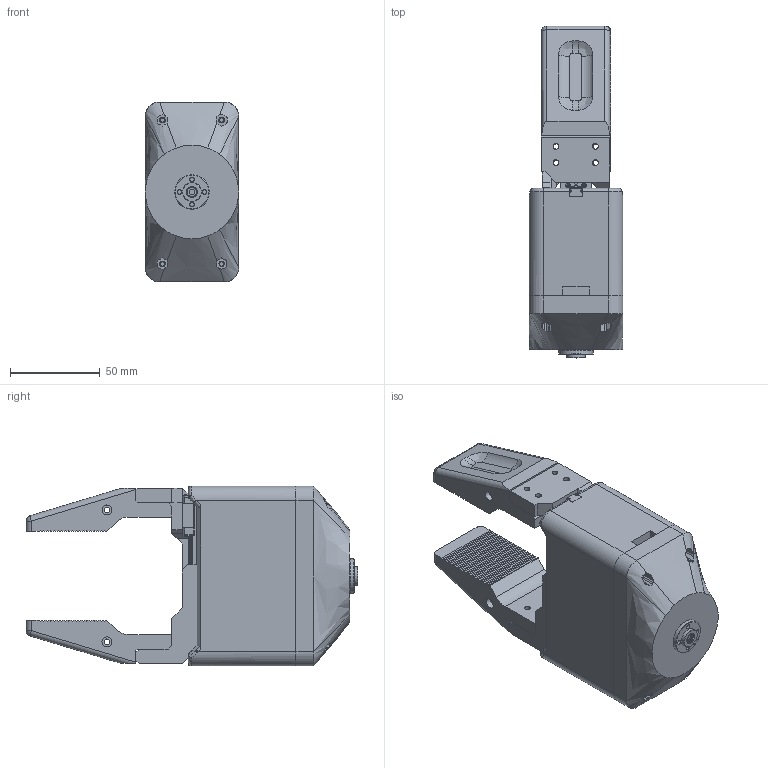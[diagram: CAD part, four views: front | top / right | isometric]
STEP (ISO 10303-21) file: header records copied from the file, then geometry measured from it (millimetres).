
FILE_DESCRIPTION(/* description */ ('STEP AP203'),/* implementation_level */ '2;1');
FILE_NAME(/* name */ 'MGN7 with rail.gripper stp.stp',/* time_stamp */ '2025-12-09T21:16:47+01:00',/* author */ ('R5800u'),/* organization */ (''),/* preprocessor_version */ 'ST-DEVELOPER v20',/* originating_system */ 'Autodesk Inventor 2025',/* authorisation */ '');
FILE_SCHEMA (('AUTOMOTIVE_DESIGN { 1 0 10303 214 3 1 1 }'));
Products named in the file (20): MGN7 with rail; MGN7 rail_100 mm; MGN7C_MGN7C; pignone; cremagliera; cremagliera2; SCS215_7_3; ZK_122; SG-ZIJI_15; XG-ZIJI_16; MOTOR-1723_3; PCB-CHAZUO_92; GE_27; 金属舵盘（驱动）; base; ANSI B18.3.1M - M3x0,5 x 40(1); base_aggancio; disco_20mm; AS 1474 - M3; dito2
Assembly tree (24 placements, depth 3):
  MGN7 with rail
    MGN7 rail_100 mm
    MGN7C_MGN7C  x2
    pignone
    cremagliera
    cremagliera2
    SCS215_7_3
      ZK_122
      SG-ZIJI_15
      XG-ZIJI_16
      MOTOR-1723_3
      PCB-CHAZUO_92
      GE_27
      金属舵盘（驱动）
    base
    ANSI B18.3.1M - M3x0,5 x 40(1)  x4
    base_aggancio
    disco_20mm
    AS 1474 - M3
    dito2  x2
Bounding box: 52 x 184.6 x 100 mm (x, y, z)
Volume: 433707 mm3; surface area: 129373.7 mm2
Topology: 39 solids, 50 shells, 2565 faces, 6968 edges, 4586 vertices
Faces by surface type: plane 1423, cylinder 791, bspline 198, cone 93, torus 34, sphere 26
Full cylindrical faces by diameter (mm): 0.8 x8, 1 x1, 1.2 x1, 1.5 x1, 1.6 x20, 2 x2, 2.2 x7, 2.4 x10, 2.459 x1, 2.5 x33, 2.6 x1, 2.659 x8, 2.7 x12, 3 x4, 3.2 x37, 3.5 x3, 4 x9, 4.2 x7, 4.5 x4, 4.7 x1, 5 x3, 5.5 x19, 5.6 x10, 6 x3, 6.1 x2, 6.2 x2, 6.5 x3, 8 x1, 10 x1, 10.5 x1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
Entity records: 90634 total; most frequent: CARTESIAN_POINT 35191, ORIENTED_EDGE 11780, DIRECTION 10856, EDGE_CURVE 5891, VERTEX_POINT 3884, AXIS2_PLACEMENT_3D 3723, LINE 3410, VECTOR 3410
